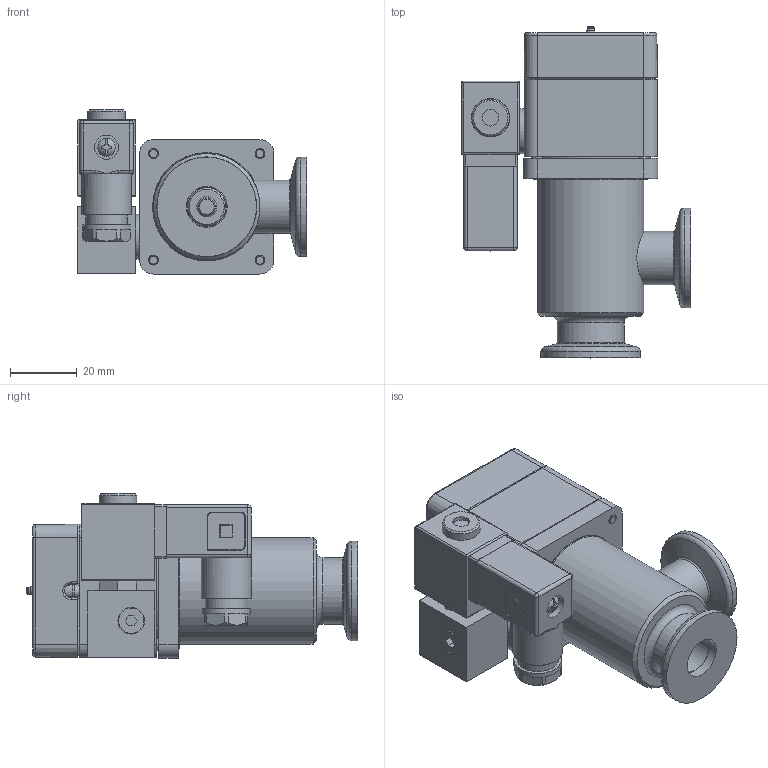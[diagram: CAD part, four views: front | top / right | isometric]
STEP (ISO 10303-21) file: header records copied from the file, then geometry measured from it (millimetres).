
FILE_DESCRIPTION(/* description */ (''),/* implementation_level */ '2;1');
FILE_NAME(/* name */ '1478346640_203.stp',/* time_stamp */ '2021-04-28T13:20:19+02:00',/* author */ (''),/* organization */ (''),/* preprocessor_version */ 'ST-DEVELOPER v16.7',/* originating_system */ 'SIEMENS PLM Software NX 1915',/* authorisation */ '');
FILE_SCHEMA (('AP203_CONFIGURATION_CONTROLLED_3D_DESIGN_OF_MECHANICAL_PARTS_AND_ASSEMBLIES_MIM_LF { 1 0 10303 403 2 1 2}'));
Length unit declared in the file: millimetre
Products named in the file (17): 467882; 437235; 346126.1; 245708.5; 346129.1; 244091.2; 236208.2; 233364; 236204_1.1; 234225.1; 228218.16; 230165.10; 346132.2; N-8501-400.2_MODELNX-ARRAGMNTArrangement 1; 402917; 402885_NX-ARRAGMNTLAGEMELDERZEICHNUNG; 384183
Assembly tree (22 placements, depth 4):
  384183
    230165.10  x2
    228218.16
    402885_NX-ARRAGMNTLAGEMELDERZEICHNUNG
      236204_1.1  x2
      233364
      236208.2  x2
    402917
      244091.2
      N-8501-400.2_MODELNX-ARRAGMNTArrangement 1
        437235
        467882
    234225.1  x4
    346132.2
      346129.1
      245708.5
      346126.1
Bounding box: 68.85 x 99.7 x 49.3 mm (x, y, z)
Volume: 83225.9 mm3; surface area: 58093.8 mm2
Topology: 19 solids, 20 shells, 811 faces, 2013 edges, 1305 vertices
Faces by surface type: plane 479, cylinder 174, cone 96, bspline 28, torus 27, sphere 7
Full cylindrical faces by diameter (mm): 1.8 x1, 2 x8, 2.2 x4, 2.3 x2, 2.5 x3, 3 x13, 3.3 x4, 4 x2, 4.2 x1, 4.22 x1, 4.7 x2, 4.8 x2, 4.9 x2, 5 x3, 5.1 x2, 5.4 x1, 5.5 x4, 5.6 x2, 5.984 x6, 6 x1, 6.01 x2, 7 x1, 7.2 x1, 7.4 x1, 7.6 x1, 7.9 x1, 8 x1, 8.85 x1, 10.2 x1, 11.3 x1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
Entity records: 22704 total; most frequent: CARTESIAN_POINT 4868, DIRECTION 3297, ORIENTED_EDGE 3078, EDGE_CURVE 1539, AXIS2_PLACEMENT_3D 1162, VERTEX_POINT 1103, LINE 973, VECTOR 973
